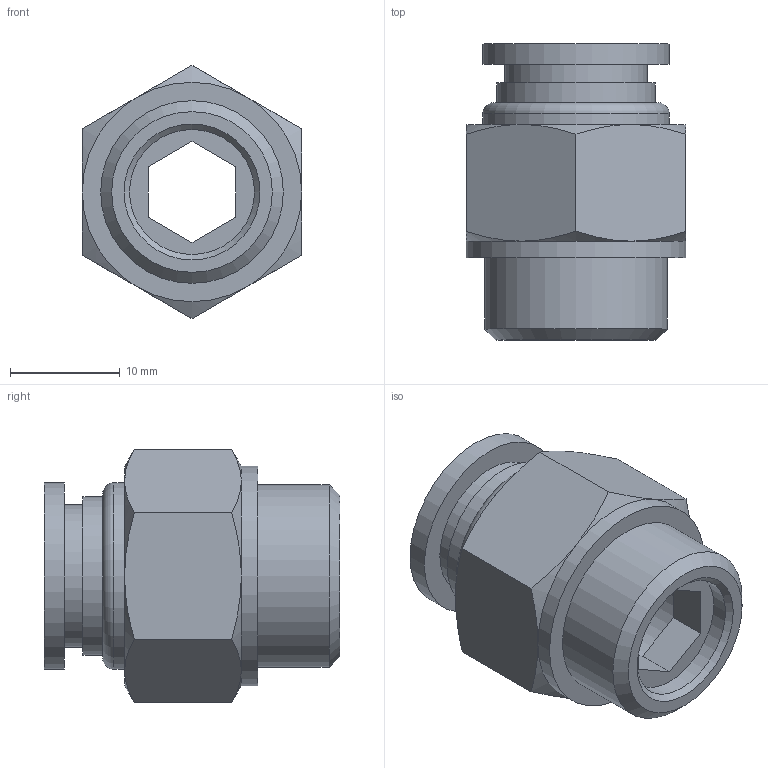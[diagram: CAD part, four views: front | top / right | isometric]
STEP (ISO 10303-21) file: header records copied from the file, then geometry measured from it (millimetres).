
FILE_DESCRIPTION(/* description */ (''),/* implementation_level */ '2;1');
FILE_NAME(/* name */ 'S:\UTecnico\ArchivioUT\Speciali Clienti\Speciali KONFIT\DISEGNI 3D\RP\RP 51\RP513810.stp',/* time_stamp */ '2013-07-05T08:22:08+02:00',/* author */ ('UT5'),/* organization */ (''),/* preprocessor_version */ 'ST-DEVELOPER v15.2',/* originating_system */ 'Autodesk Inventor 2014',/* authorisation */ '');
FILE_SCHEMA (('AUTOMOTIVE_DESIGN { 1 0 10303 214 3 1 1 }'));
Length unit declared in the file: millimetre
Products named in the file (1): RP513810
Bounding box: 20 x 27 x 23.09 mm (x, y, z)
Volume: 5047.6 mm3; surface area: 3098.3 mm2
Topology: 1 solids, 1 shells, 44 faces, 90 edges, 55 vertices
Faces by surface type: plane 21, cone 14, cylinder 8, torus 1
Full cylindrical faces by diameter (mm): 10 x1, 11.4 x1, 13 x1, 14.5 x1, 16.662 x1, 17 x2, 20 x1
Entity records: 1101 total; most frequent: CARTESIAN_POINT 225, DIRECTION 174, ORIENTED_EDGE 156, EDGE_CURVE 78, AXIS2_PLACEMENT_3D 75, EDGE_LOOP 64, VERTEX_POINT 54, ADVANCED_FACE 44
